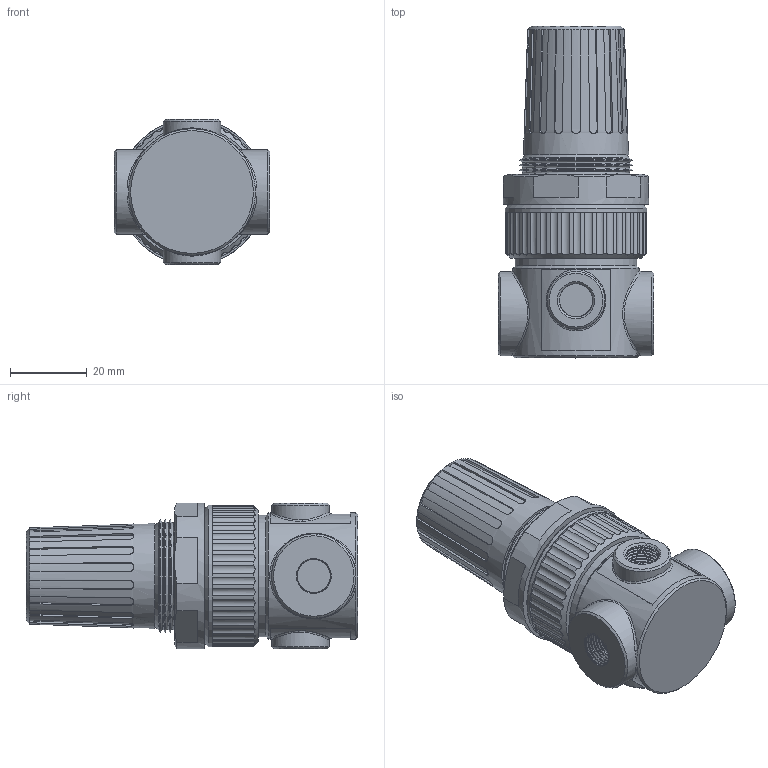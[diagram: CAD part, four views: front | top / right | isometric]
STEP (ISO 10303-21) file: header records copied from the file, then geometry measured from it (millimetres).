
FILE_DESCRIPTION(/* description */ (''),/* implementation_level */ '2;1');
FILE_NAME(/* name */ 'U:/AirCom-Produktdokumentation/Druckregler/R039/Zeichnungen/CAD-Aircom/3D/B-R039-01x_01.step',/* time_stamp */ '2016-10-21T10:17:42+02:00',/* author */ (''),/* organization */ (''),/* preprocessor_version */ 'ST-DEVELOPER v16.5',/* originating_system */ 'Autodesk Translation Framework v5.2.0.2031',/* authorisation */ '');
FILE_SCHEMA (('AUTOMOTIVE_DESIGN { 1 0 10303 214 3 1 1 }'));
Length unit declared in the file: centimetre
Products named in the file (1): B-R039-02x_01
Bounding box: 40.6 x 86.5 x 38 mm (x, y, z)
Volume: 67958.2 mm3; surface area: 14272.2 mm2
Topology: 1 solids, 1 shells, 327 faces, 880 edges, 561 vertices
Faces by surface type: cylinder 127, plane 112, cone 46, bspline 34, torus 8
Full cylindrical faces by diameter (mm): 15 x2, 20.7 x1, 22 x2, 31.7 x1, 33 x1, 37 x1, 38 x1
Entity records: 29603 total; most frequent: CARTESIAN_POINT 21963, ORIENTED_EDGE 1642, DIRECTION 1494, EDGE_CURVE 821, AXIS2_PLACEMENT_3D 602, VERTEX_POINT 547, EDGE_LOOP 378, FACE_OUTER_BOUND 327
